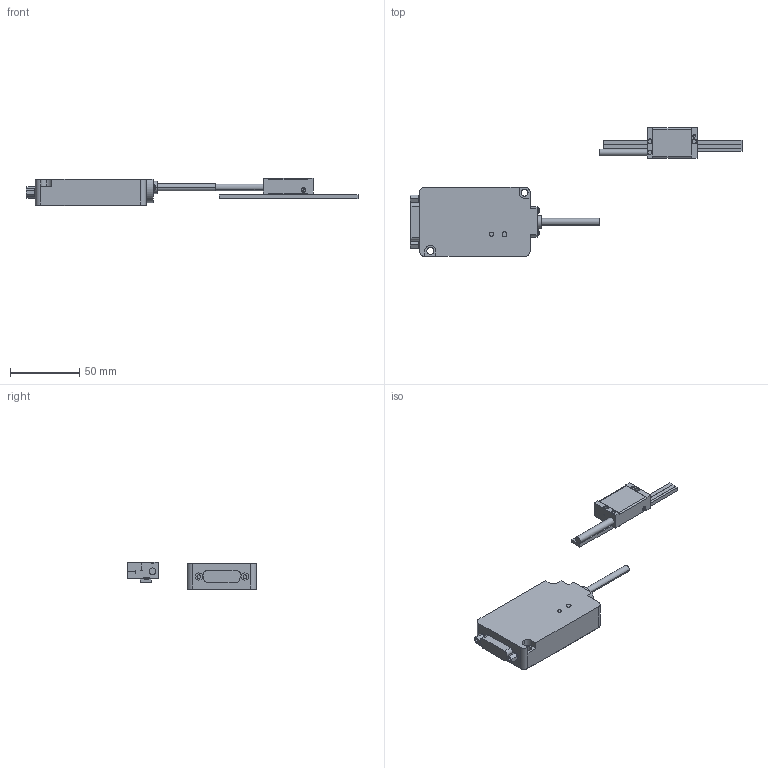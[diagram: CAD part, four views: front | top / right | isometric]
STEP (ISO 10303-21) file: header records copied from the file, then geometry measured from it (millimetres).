
FILE_DESCRIPTION(('Creo Elements/Direct Modeling STEP Export'),'2;1');
FILE_NAME('ST36-80.stp','2017-10-11T15:50:18',(''),(''),'Creo Elements/Direct Modeling STEP processor for AP214 (Solid Model)','Creo Elements/Direct Modeling 18.1B 29-Sep-2012 (C) Parametric Technology GmbH','');
FILE_SCHEMA(('AUTOMOTIVE_DESIGN { 1 0 10303 214 1 1 1 1 }'));
Length unit declared in the file: millimetre
Products named in the file (4): DetectorHead; IFbox; Scale_80; ST36-80
Assembly tree (3 placements, depth 2):
  ST36-80
    Scale_80
    IFbox
    DetectorHead
Bounding box: 239.67 x 93 x 19.9 mm (x, y, z)
Volume: 90257 mm3; surface area: 20907.4 mm2
Topology: 3 solids, 5 shells, 267 faces, 634 edges, 399 vertices
Faces by surface type: plane 167, cylinder 62, cone 28, torus 8, bspline 2
Entity records: 8261 total; most frequent: CARTESIAN_POINT 1420, ORIENTED_EDGE 1268, DIRECTION 1212, EDGE_CURVE 634, VECTOR 408, LINE 408, AXIS2_PLACEMENT_3D 402, VERTEX_POINT 399
